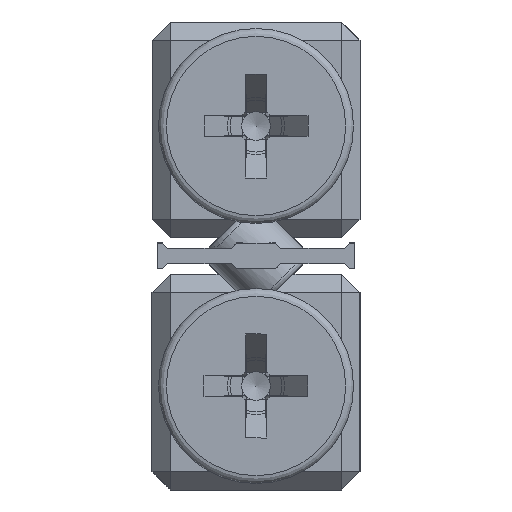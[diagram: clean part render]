
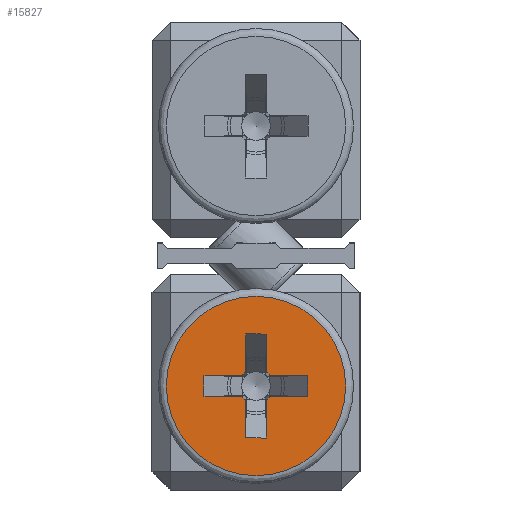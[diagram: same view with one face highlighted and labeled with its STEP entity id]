
A CAD part, left-side view. The second image highlights one B-rep face of the part: STEP entity #15827.
In plain terms, the highlighted planar face has unit normal (-1, 0, 0).
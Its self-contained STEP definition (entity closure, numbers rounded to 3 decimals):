
#29 = ORIENTED_EDGE ( 'NONE', *, *, #11581, .F. ) ;
#182 = ORIENTED_EDGE ( 'NONE', *, *, #326, .F. ) ;
#326 = EDGE_CURVE ( 'NONE', #26269, #11069, #1551, .T. ) ;
#615 = CARTESIAN_POINT ( 'NONE',  ( -127., 0., 4. ) ) ;
#891 = VECTOR ( 'NONE', #19168, 1000. ) ;
#921 = CARTESIAN_POINT ( 'NONE',  ( -127., -0.4, 3.452 ) ) ;
#1030 = VERTEX_POINT ( 'NONE', #24010 ) ;
#1249 = ORIENTED_EDGE ( 'NONE', *, *, #18032, .F. ) ;
#1323 = CARTESIAN_POINT ( 'NONE',  ( -127., -0.548, 4.4 ) ) ;
#1328 = ORIENTED_EDGE ( 'NONE', *, *, #26925, .F. ) ;
#1551 = CIRCLE ( 'NONE', #21575, 0.678 ) ;
#1703 = ORIENTED_EDGE ( 'NONE', *, *, #28315, .T. ) ;
#1819 = EDGE_CURVE ( 'NONE', #7401, #24294, #26201, .T. ) ;
#2056 = VERTEX_POINT ( 'NONE', #24623 ) ;
#2346 = DIRECTION ( 'NONE',  ( 0., 0., 1. ) ) ;
#2373 = ORIENTED_EDGE ( 'NONE', *, *, #30127, .F. ) ;
#2417 = DIRECTION ( 'NONE',  ( -1., 0., 0. ) ) ;
#2504 = DIRECTION ( 'NONE',  ( -1., 0., 0. ) ) ;
#2782 = CARTESIAN_POINT ( 'NONE',  ( -127., 2., 4.4 ) ) ;
#2975 = EDGE_CURVE ( 'NONE', #22825, #28026, #29528, .T. ) ;
#3269 = LINE ( 'NONE', #7934, #17673 ) ;
#3326 = VECTOR ( 'NONE', #23470, 1000. ) ;
#3443 = ORIENTED_EDGE ( 'NONE', *, *, #8397, .F. ) ;
#4170 = CARTESIAN_POINT ( 'NONE',  ( -127., -0.4, 6. ) ) ;
#4193 = CARTESIAN_POINT ( 'NONE',  ( -127., -0.4, 6. ) ) ;
#4315 = VECTOR ( 'NONE', #16505, 1000. ) ;
#4395 = LINE ( 'NONE', #14187, #891 ) ;
#4521 = VERTEX_POINT ( 'NONE', #1323 ) ;
#4956 = DIRECTION ( 'NONE',  ( -1., 0., 0. ) ) ;
#4997 = EDGE_CURVE ( 'NONE', #20045, #20045, #12826, .T. ) ;
#5596 = ORIENTED_EDGE ( 'NONE', *, *, #15929, .F. ) ;
#5992 = DIRECTION ( 'NONE',  ( 0., -1., 0. ) ) ;
#6188 = AXIS2_PLACEMENT_3D ( 'NONE', #9605, #4956, #19737 ) ;
#6777 = CARTESIAN_POINT ( 'NONE',  ( -127., 0., 4. ) ) ;
#7083 = AXIS2_PLACEMENT_3D ( 'NONE', #25062, #8012, #12361 ) ;
#7219 = CARTESIAN_POINT ( 'NONE',  ( -127., 2., 4.4 ) ) ;
#7401 = VERTEX_POINT ( 'NONE', #921 ) ;
#7718 = VECTOR ( 'NONE', #28221, 1000. ) ;
#7934 = CARTESIAN_POINT ( 'NONE',  ( -127., 0.4, 2. ) ) ;
#7965 = EDGE_CURVE ( 'NONE', #20271, #8367, #31288, .T. ) ;
#8012 = DIRECTION ( 'NONE',  ( 1., 0., 0. ) ) ;
#8236 = EDGE_CURVE ( 'NONE', #22825, #26674, #22895, .T. ) ;
#8367 = VERTEX_POINT ( 'NONE', #26101 ) ;
#8397 = EDGE_CURVE ( 'NONE', #20271, #24294, #4395, .T. ) ;
#8764 = CARTESIAN_POINT ( 'NONE',  ( -127., 0.4, 2. ) ) ;
#8908 = CARTESIAN_POINT ( 'NONE',  ( -127., 0.4, 6. ) ) ;
#9055 = CIRCLE ( 'NONE', #11093, 0.678 ) ;
#9605 = CARTESIAN_POINT ( 'NONE',  ( -127., 0., 4. ) ) ;
#9632 = VECTOR ( 'NONE', #29239, 1000. ) ;
#9636 = FACE_BOUND ( 'NONE', #11037, .T. ) ;
#9952 = DIRECTION ( 'NONE',  ( 0., 0., 1. ) ) ;
#10718 = ORIENTED_EDGE ( 'NONE', *, *, #1819, .T. ) ;
#11037 = EDGE_LOOP ( 'NONE', ( #1249, #10718, #3443, #17311, #5596, #16166, #1328, #23777, #182, #1703, #26512, #27420, #2373, #20839, #29, #30859 ) ) ;
#11069 = VERTEX_POINT ( 'NONE', #18538 ) ;
#11093 = AXIS2_PLACEMENT_3D ( 'NONE', #25531, #20548, #13149 ) ;
#11313 = VERTEX_POINT ( 'NONE', #2782 ) ;
#11362 = CARTESIAN_POINT ( 'NONE',  ( -127., -2., 3.6 ) ) ;
#11581 = EDGE_CURVE ( 'NONE', #16722, #2056, #11906, .T. ) ;
#11906 = LINE ( 'NONE', #31539, #18494 ) ;
#12361 = DIRECTION ( 'NONE',  ( 0., 0., -1. ) ) ;
#12457 = VECTOR ( 'NONE', #14886, 1000. ) ;
#12792 = CARTESIAN_POINT ( 'NONE',  ( -127., 0., 0.55 ) ) ;
#12826 = CIRCLE ( 'NONE', #6188, 3.45 ) ;
#13051 = EDGE_CURVE ( 'NONE', #11313, #11069, #18184, .T. ) ;
#13149 = DIRECTION ( 'NONE',  ( 0., 0., 1. ) ) ;
#13475 = DIRECTION ( 'NONE',  ( 0., 0., -1. ) ) ;
#13605 = EDGE_CURVE ( 'NONE', #4521, #2056, #31671, .T. ) ;
#13759 = LINE ( 'NONE', #11362, #4315 ) ;
#13905 = DIRECTION ( 'NONE',  ( 0., 0., 1. ) ) ;
#14187 = CARTESIAN_POINT ( 'NONE',  ( -127., 0.4, 2. ) ) ;
#14641 = DIRECTION ( 'NONE',  ( 0., 0., 1. ) ) ;
#14886 = DIRECTION ( 'NONE',  ( 0., 1., 0. ) ) ;
#15827 = ADVANCED_FACE ( 'NONE', ( #31366, #9636 ), #19121, .F. ) ;
#15929 = EDGE_CURVE ( 'NONE', #21240, #8367, #31240, .T. ) ;
#16078 = LINE ( 'NONE', #28787, #3326 ) ;
#16104 = CARTESIAN_POINT ( 'NONE',  ( -127., 2., 4.4 ) ) ;
#16166 = ORIENTED_EDGE ( 'NONE', *, *, #19498, .T. ) ;
#16278 = VECTOR ( 'NONE', #5992, 1000. ) ;
#16505 = DIRECTION ( 'NONE',  ( 0., 1., 0. ) ) ;
#16722 = VERTEX_POINT ( 'NONE', #27779 ) ;
#16816 = CARTESIAN_POINT ( 'NONE',  ( -127., 0., 4. ) ) ;
#17311 = ORIENTED_EDGE ( 'NONE', *, *, #7965, .T. ) ;
#17673 = VECTOR ( 'NONE', #20616, 1000. ) ;
#18032 = EDGE_CURVE ( 'NONE', #7401, #18923, #18981, .T. ) ;
#18184 = LINE ( 'NONE', #16104, #16278 ) ;
#18369 = CARTESIAN_POINT ( 'NONE',  ( -127., -0.4, 6. ) ) ;
#18394 = CARTESIAN_POINT ( 'NONE',  ( -127., -2., 3.6 ) ) ;
#18494 = VECTOR ( 'NONE', #24727, 1000. ) ;
#18538 = CARTESIAN_POINT ( 'NONE',  ( -127., 0.548, 4.4 ) ) ;
#18923 = VERTEX_POINT ( 'NONE', #22329 ) ;
#18981 = CIRCLE ( 'NONE', #23102, 0.678 ) ;
#19121 = PLANE ( 'NONE',  #7083 ) ;
#19168 = DIRECTION ( 'NONE',  ( 0., -1., 0. ) ) ;
#19498 = EDGE_CURVE ( 'NONE', #21240, #1030, #30469, .T. ) ;
#19612 = VECTOR ( 'NONE', #13475, 1000. ) ;
#19737 = DIRECTION ( 'NONE',  ( 0., 0., -1. ) ) ;
#19918 = VECTOR ( 'NONE', #23047, 1000. ) ;
#20045 = VERTEX_POINT ( 'NONE', #12792 ) ;
#20232 = DIRECTION ( 'NONE',  ( -1., 0., 0. ) ) ;
#20271 = VERTEX_POINT ( 'NONE', #20276 ) ;
#20276 = CARTESIAN_POINT ( 'NONE',  ( -127., 0.4, 2. ) ) ;
#20433 = AXIS2_PLACEMENT_3D ( 'NONE', #615, #20232, #9952 ) ;
#20548 = DIRECTION ( 'NONE',  ( -1., 0., 0. ) ) ;
#20616 = DIRECTION ( 'NONE',  ( 0., 0., 1. ) ) ;
#20839 = ORIENTED_EDGE ( 'NONE', *, *, #13605, .T. ) ;
#21240 = VERTEX_POINT ( 'NONE', #23992 ) ;
#21411 = EDGE_LOOP ( 'NONE', ( #28339 ) ) ;
#21575 = AXIS2_PLACEMENT_3D ( 'NONE', #6777, #2417, #14641 ) ;
#22329 = CARTESIAN_POINT ( 'NONE',  ( -127., -0.548, 3.6 ) ) ;
#22825 = VERTEX_POINT ( 'NONE', #4193 ) ;
#22895 = LINE ( 'NONE', #18369, #19918 ) ;
#23047 = DIRECTION ( 'NONE',  ( 0., 0., -1. ) ) ;
#23102 = AXIS2_PLACEMENT_3D ( 'NONE', #16816, #2504, #2346 ) ;
#23470 = DIRECTION ( 'NONE',  ( 0., 0., -1. ) ) ;
#23777 = ORIENTED_EDGE ( 'NONE', *, *, #13051, .T. ) ;
#23935 = VECTOR ( 'NONE', #13905, 1000. ) ;
#23992 = CARTESIAN_POINT ( 'NONE',  ( -127., 0.548, 3.6 ) ) ;
#24010 = CARTESIAN_POINT ( 'NONE',  ( -127., 2., 3.6 ) ) ;
#24294 = VERTEX_POINT ( 'NONE', #25916 ) ;
#24623 = CARTESIAN_POINT ( 'NONE',  ( -127., -2., 4.4 ) ) ;
#24727 = DIRECTION ( 'NONE',  ( 0., 0., 1. ) ) ;
#25062 = CARTESIAN_POINT ( 'NONE',  ( -127., 3.75, 4. ) ) ;
#25531 = CARTESIAN_POINT ( 'NONE',  ( -127., 0., 4. ) ) ;
#25916 = CARTESIAN_POINT ( 'NONE',  ( -127., -0.4, 2. ) ) ;
#26101 = CARTESIAN_POINT ( 'NONE',  ( -127., 0.4, 3.452 ) ) ;
#26126 = CARTESIAN_POINT ( 'NONE',  ( -127., -0.4, 4.548 ) ) ;
#26201 = LINE ( 'NONE', #4170, #19612 ) ;
#26269 = VERTEX_POINT ( 'NONE', #28418 ) ;
#26512 = ORIENTED_EDGE ( 'NONE', *, *, #2975, .F. ) ;
#26674 = VERTEX_POINT ( 'NONE', #26126 ) ;
#26925 = EDGE_CURVE ( 'NONE', #11313, #1030, #16078, .T. ) ;
#27420 = ORIENTED_EDGE ( 'NONE', *, *, #8236, .T. ) ;
#27594 = CARTESIAN_POINT ( 'NONE',  ( -127., -0.4, 6. ) ) ;
#27672 = EDGE_CURVE ( 'NONE', #16722, #18923, #13759, .T. ) ;
#27779 = CARTESIAN_POINT ( 'NONE',  ( -127., -2., 3.6 ) ) ;
#28026 = VERTEX_POINT ( 'NONE', #8908 ) ;
#28221 = DIRECTION ( 'NONE',  ( 0., 1., 0. ) ) ;
#28315 = EDGE_CURVE ( 'NONE', #26269, #28026, #3269, .T. ) ;
#28339 = ORIENTED_EDGE ( 'NONE', *, *, #4997, .T. ) ;
#28418 = CARTESIAN_POINT ( 'NONE',  ( -127., 0.4, 4.548 ) ) ;
#28787 = CARTESIAN_POINT ( 'NONE',  ( -127., 2., 4.4 ) ) ;
#29239 = DIRECTION ( 'NONE',  ( 0., -1., 0. ) ) ;
#29528 = LINE ( 'NONE', #27594, #12457 ) ;
#30127 = EDGE_CURVE ( 'NONE', #4521, #26674, #9055, .T. ) ;
#30469 = LINE ( 'NONE', #18394, #7718 ) ;
#30859 = ORIENTED_EDGE ( 'NONE', *, *, #27672, .T. ) ;
#31240 = CIRCLE ( 'NONE', #20433, 0.678 ) ;
#31288 = LINE ( 'NONE', #8764, #23935 ) ;
#31366 = FACE_OUTER_BOUND ( 'NONE', #21411, .T. ) ;
#31539 = CARTESIAN_POINT ( 'NONE',  ( -127., -2., 3.6 ) ) ;
#31671 = LINE ( 'NONE', #7219, #9632 ) ;
